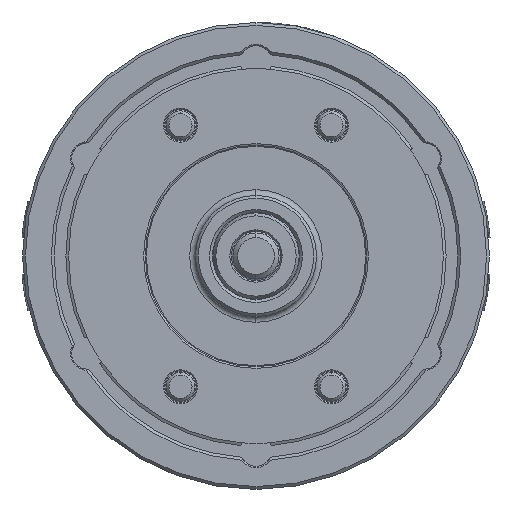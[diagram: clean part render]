
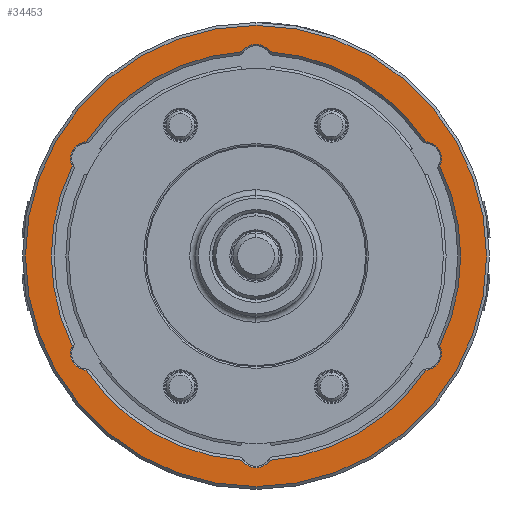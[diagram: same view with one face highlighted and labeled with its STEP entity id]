
A CAD part, left-side view. The second image highlights one B-rep face of the part: STEP entity #34453.
In plain terms, the highlighted planar face has unit normal (-1, 0, 0).
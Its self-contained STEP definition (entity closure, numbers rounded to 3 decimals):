
#511 = CARTESIAN_POINT ( 'NONE',  ( -77., 0., 73.4 ) ) ;
#1650 = VERTEX_POINT ( 'NONE', #38484 ) ;
#2087 = DIRECTION ( 'NONE',  ( -1., 0., 0. ) ) ;
#2581 = EDGE_CURVE ( 'NONE', #1650, #45828, #30780, .T. ) ;
#2658 = ORIENTED_EDGE ( 'NONE', *, *, #10299, .T. ) ;
#2867 = CARTESIAN_POINT ( 'NONE',  ( -77., 0., 0. ) ) ;
#3007 = ORIENTED_EDGE ( 'NONE', *, *, #50878, .F. ) ;
#3362 = DIRECTION ( 'NONE',  ( -1., 0., 0. ) ) ;
#3844 = CARTESIAN_POINT ( 'NONE',  ( -77., -58.909, 39.633 ) ) ;
#4203 = AXIS2_PLACEMENT_3D ( 'NONE', #37961, #13993, #41976 ) ;
#5310 = ORIENTED_EDGE ( 'NONE', *, *, #43005, .T. ) ;
#5366 = DIRECTION ( 'NONE',  ( 1., 0., 0. ) ) ;
#5968 = CARTESIAN_POINT ( 'NONE',  ( -77., 0., -80. ) ) ;
#6902 = DIRECTION ( 'NONE',  ( 0., 0., -1. ) ) ;
#6945 = DIRECTION ( 'NONE',  ( -1., 0., 0. ) ) ;
#8654 = CARTESIAN_POINT ( 'NONE',  ( -77., 58.909, -39.633 ) ) ;
#8763 = DIRECTION ( 'NONE',  ( 1., 0., 0. ) ) ;
#8790 = ORIENTED_EDGE ( 'NONE', *, *, #34115, .F. ) ;
#9895 = VERTEX_POINT ( 'NONE', #24736 ) ;
#9902 = EDGE_CURVE ( 'NONE', #13542, #27298, #35174, .T. ) ;
#10299 = EDGE_CURVE ( 'NONE', #18798, #22220, #10670, .T. ) ;
#10670 = CIRCLE ( 'NONE', #50678, 71. ) ;
#11314 = DIRECTION ( 'NONE',  ( 1., 0., 0. ) ) ;
#11653 = AXIS2_PLACEMENT_3D ( 'NONE', #36695, #12700, #40691 ) ;
#11661 = AXIS2_PLACEMENT_3D ( 'NONE', #41954, #18016, #45919 ) ;
#11821 = DIRECTION ( 'NONE',  ( 0., 0., -1. ) ) ;
#11829 = DIRECTION ( 'NONE',  ( 1., 0., 0. ) ) ;
#11949 = CARTESIAN_POINT ( 'NONE',  ( -77., 0., 0. ) ) ;
#12700 = DIRECTION ( 'NONE',  ( -1., 0., 0. ) ) ;
#12722 = AXIS2_PLACEMENT_3D ( 'NONE', #47742, #47641, #47575 ) ;
#12952 = EDGE_CURVE ( 'NONE', #18798, #26027, #39903, .T. ) ;
#12998 = ORIENTED_EDGE ( 'NONE', *, *, #18871, .F. ) ;
#13542 = VERTEX_POINT ( 'NONE', #26245 ) ;
#13915 = CARTESIAN_POINT ( 'NONE',  ( -77., 0., 80. ) ) ;
#13993 = DIRECTION ( 'NONE',  ( -1., 0., 0. ) ) ;
#14313 = ORIENTED_EDGE ( 'NONE', *, *, #12952, .F. ) ;
#15326 = ORIENTED_EDGE ( 'NONE', *, *, #42874, .F. ) ;
#15995 = AXIS2_PLACEMENT_3D ( 'NONE', #32804, #8763, #36828 ) ;
#16098 = VERTEX_POINT ( 'NONE', #29601 ) ;
#17354 = DIRECTION ( 'NONE',  ( -1., 0., 0. ) ) ;
#17577 = EDGE_LOOP ( 'NONE', ( #41041, #33763, #12998, #5310, #22387, #22248, #3007, #18888, #39193, #25165, #8790, #14313, #2658 ) ) ;
#17956 = EDGE_CURVE ( 'NONE', #16098, #47853, #44709, .T. ) ;
#18016 = DIRECTION ( 'NONE',  ( 1., 0., 0. ) ) ;
#18798 = VERTEX_POINT ( 'NONE', #49933 ) ;
#18871 = EDGE_CURVE ( 'NONE', #9895, #45828, #26599, .T. ) ;
#18888 = ORIENTED_EDGE ( 'NONE', *, *, #17956, .T. ) ;
#19706 = CARTESIAN_POINT ( 'NONE',  ( -77., 80., 0. ) ) ;
#19798 = CIRCLE ( 'NONE', #22725, 5.9 ) ;
#21027 = AXIS2_PLACEMENT_3D ( 'NONE', #26239, #2087, #30239 ) ;
#21471 = AXIS2_PLACEMENT_3D ( 'NONE', #19706, #47425, #51521 ) ;
#22167 = CARTESIAN_POINT ( 'NONE',  ( -77., 58.909, 39.633 ) ) ;
#22220 = VERTEX_POINT ( 'NONE', #3844 ) ;
#22248 = ORIENTED_EDGE ( 'NONE', *, *, #29576, .T. ) ;
#22387 = ORIENTED_EDGE ( 'NONE', *, *, #9902, .F. ) ;
#22725 = AXIS2_PLACEMENT_3D ( 'NONE', #27510, #3362, #31508 ) ;
#23661 = DIRECTION ( 'NONE',  ( 0., 0., 1. ) ) ;
#23720 = DIRECTION ( 'NONE',  ( -1., 0., 0. ) ) ;
#23789 = CARTESIAN_POINT ( 'NONE',  ( -77., 0., 0. ) ) ;
#23826 = CARTESIAN_POINT ( 'NONE',  ( -77., 0., -67.5 ) ) ;
#24736 = CARTESIAN_POINT ( 'NONE',  ( -77., -58.909, -39.633 ) ) ;
#24881 = FACE_BOUND ( 'NONE', #17577, .T. ) ;
#25165 = ORIENTED_EDGE ( 'NONE', *, *, #45314, .T. ) ;
#25370 = VERTEX_POINT ( 'NONE', #5968 ) ;
#25552 = CIRCLE ( 'NONE', #11653, 5.9 ) ;
#26027 = VERTEX_POINT ( 'NONE', #511 ) ;
#26239 = CARTESIAN_POINT ( 'NONE',  ( -77., 58.457, -33.75 ) ) ;
#26245 = CARTESIAN_POINT ( 'NONE',  ( -77., 4.868, -70.833 ) ) ;
#26593 = EDGE_CURVE ( 'NONE', #45891, #47853, #28214, .T. ) ;
#26599 = CIRCLE ( 'NONE', #48959, 5.9 ) ;
#26949 = AXIS2_PLACEMENT_3D ( 'NONE', #35338, #11314, #39341 ) ;
#27220 = AXIS2_PLACEMENT_3D ( 'NONE', #41308, #17354, #45269 ) ;
#27298 = VERTEX_POINT ( 'NONE', #51362 ) ;
#27510 = CARTESIAN_POINT ( 'NONE',  ( -77., -58.457, 33.75 ) ) ;
#27758 = CIRCLE ( 'NONE', #21027, 5.9 ) ;
#27805 = DIRECTION ( 'NONE',  ( 0., 0., -1. ) ) ;
#28214 = CIRCLE ( 'NONE', #27220, 5.9 ) ;
#28671 = CIRCLE ( 'NONE', #47046, 71. ) ;
#29466 = CARTESIAN_POINT ( 'NONE',  ( -77., 0., 0. ) ) ;
#29576 = EDGE_CURVE ( 'NONE', #13542, #41829, #28671, .T. ) ;
#29601 = CARTESIAN_POINT ( 'NONE',  ( -77., 63.777, -31.2 ) ) ;
#30239 = DIRECTION ( 'NONE',  ( 0., 0., 1. ) ) ;
#30474 = EDGE_CURVE ( 'NONE', #1650, #22220, #19798, .T. ) ;
#30780 = CIRCLE ( 'NONE', #12722, 71. ) ;
#30984 = DIRECTION ( 'NONE',  ( 1., 0., 0. ) ) ;
#31033 = CARTESIAN_POINT ( 'NONE',  ( -77., -58.457, -33.75 ) ) ;
#31508 = DIRECTION ( 'NONE',  ( 0., 0., 1. ) ) ;
#32804 = CARTESIAN_POINT ( 'NONE',  ( -77., 0., 0. ) ) ;
#33454 = DIRECTION ( 'NONE',  ( 0., 0., -1. ) ) ;
#33763 = ORIENTED_EDGE ( 'NONE', *, *, #2581, .T. ) ;
#34115 = EDGE_CURVE ( 'NONE', #26027, #49054, #25552, .T. ) ;
#34453 = ADVANCED_FACE ( 'NONE', ( #24881, #35486 ), #43582, .T. ) ;
#34991 = AXIS2_PLACEMENT_3D ( 'NONE', #2867, #30984, #6902 ) ;
#35026 = DIRECTION ( 'NONE',  ( 0., 0., 1. ) ) ;
#35174 = CIRCLE ( 'NONE', #49029, 5.9 ) ;
#35338 = CARTESIAN_POINT ( 'NONE',  ( -77., 0., 0. ) ) ;
#35486 = FACE_OUTER_BOUND ( 'NONE', #45880, .T. ) ;
#36695 = CARTESIAN_POINT ( 'NONE',  ( -77., 0., 67.5 ) ) ;
#36828 = DIRECTION ( 'NONE',  ( 0., 0., -1. ) ) ;
#37253 = EDGE_CURVE ( 'NONE', #41000, #25370, #42146, .T. ) ;
#37699 = CARTESIAN_POINT ( 'NONE',  ( -77., -63.777, -31.2 ) ) ;
#37961 = CARTESIAN_POINT ( 'NONE',  ( -77., 0., 67.5 ) ) ;
#38484 = CARTESIAN_POINT ( 'NONE',  ( -77., -63.777, 31.2 ) ) ;
#39193 = ORIENTED_EDGE ( 'NONE', *, *, #26593, .F. ) ;
#39341 = DIRECTION ( 'NONE',  ( 0., 0., -1. ) ) ;
#39903 = CIRCLE ( 'NONE', #4203, 5.9 ) ;
#40691 = DIRECTION ( 'NONE',  ( 0., 0., 1. ) ) ;
#40795 = CIRCLE ( 'NONE', #15995, 71. ) ;
#41000 = VERTEX_POINT ( 'NONE', #13915 ) ;
#41041 = ORIENTED_EDGE ( 'NONE', *, *, #30474, .F. ) ;
#41308 = CARTESIAN_POINT ( 'NONE',  ( -77., 58.457, 33.75 ) ) ;
#41829 = VERTEX_POINT ( 'NONE', #8654 ) ;
#41954 = CARTESIAN_POINT ( 'NONE',  ( -77., 0., 0. ) ) ;
#41976 = DIRECTION ( 'NONE',  ( 0., 0., 1. ) ) ;
#42146 = CIRCLE ( 'NONE', #26949, 80. ) ;
#42874 = EDGE_CURVE ( 'NONE', #25370, #41000, #43279, .T. ) ;
#43005 = EDGE_CURVE ( 'NONE', #9895, #27298, #40795, .T. ) ;
#43279 = CIRCLE ( 'NONE', #46441, 80. ) ;
#43582 = PLANE ( 'NONE',  #21471 ) ;
#44709 = CIRCLE ( 'NONE', #34991, 71. ) ;
#45269 = DIRECTION ( 'NONE',  ( 0., 0., 1. ) ) ;
#45314 = EDGE_CURVE ( 'NONE', #45891, #49054, #49294, .T. ) ;
#45351 = CARTESIAN_POINT ( 'NONE',  ( -77., 63.777, 31.2 ) ) ;
#45828 = VERTEX_POINT ( 'NONE', #37699 ) ;
#45880 = EDGE_LOOP ( 'NONE', ( #15326, #47826 ) ) ;
#45891 = VERTEX_POINT ( 'NONE', #22167 ) ;
#45919 = DIRECTION ( 'NONE',  ( 0., 0., -1. ) ) ;
#46441 = AXIS2_PLACEMENT_3D ( 'NONE', #23789, #51537, #27805 ) ;
#47046 = AXIS2_PLACEMENT_3D ( 'NONE', #29466, #5366, #33454 ) ;
#47425 = DIRECTION ( 'NONE',  ( -1., 0., 0. ) ) ;
#47575 = DIRECTION ( 'NONE',  ( 0., 0., -1. ) ) ;
#47641 = DIRECTION ( 'NONE',  ( 1., 0., 0. ) ) ;
#47742 = CARTESIAN_POINT ( 'NONE',  ( -77., 0., 0. ) ) ;
#47826 = ORIENTED_EDGE ( 'NONE', *, *, #37253, .F. ) ;
#47853 = VERTEX_POINT ( 'NONE', #45351 ) ;
#48959 = AXIS2_PLACEMENT_3D ( 'NONE', #31033, #6945, #35026 ) ;
#49029 = AXIS2_PLACEMENT_3D ( 'NONE', #23826, #23720, #23661 ) ;
#49054 = VERTEX_POINT ( 'NONE', #50388 ) ;
#49294 = CIRCLE ( 'NONE', #11661, 71. ) ;
#49933 = CARTESIAN_POINT ( 'NONE',  ( -77., -4.868, 70.833 ) ) ;
#50388 = CARTESIAN_POINT ( 'NONE',  ( -77., 4.868, 70.833 ) ) ;
#50678 = AXIS2_PLACEMENT_3D ( 'NONE', #11949, #11829, #11821 ) ;
#50878 = EDGE_CURVE ( 'NONE', #16098, #41829, #27758, .T. ) ;
#51362 = CARTESIAN_POINT ( 'NONE',  ( -77., -4.868, -70.833 ) ) ;
#51521 = DIRECTION ( 'NONE',  ( 0., 0., 1. ) ) ;
#51537 = DIRECTION ( 'NONE',  ( 1., 0., 0. ) ) ;
